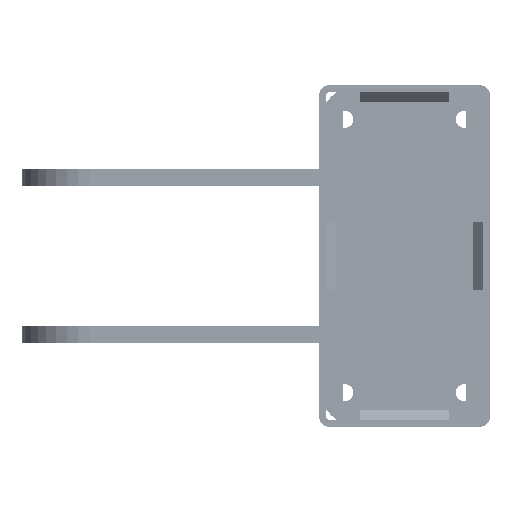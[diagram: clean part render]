
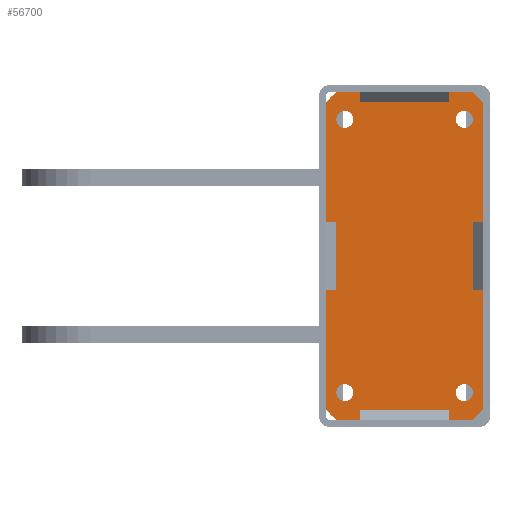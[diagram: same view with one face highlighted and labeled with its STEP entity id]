
A CAD part, front view. The second image highlights one B-rep face of the part: STEP entity #56700.
In plain terms, the highlighted planar face has unit normal (0, -1, 0).
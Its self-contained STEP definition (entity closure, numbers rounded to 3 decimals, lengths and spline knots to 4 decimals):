
#2397 = CARTESIAN_POINT ( 'NONE',  ( -6.7408, -15.2966, 32.5984 ) ) ;
#3856 = LINE ( 'NONE', #12532, #110785 ) ;
#7234 = CARTESIAN_POINT ( 'NONE',  ( -5.2644, -15.2966, 32.185 ) ) ;
#7785 = AXIS2_PLACEMENT_3D ( 'NONE', #23713, #96163, #14167 ) ;
#8439 = CARTESIAN_POINT ( 'NONE',  ( -5.166, -15.2966, 32.5984 ) ) ;
#8983 = VERTEX_POINT ( 'NONE', #12369 ) ;
#10382 = DIRECTION ( 'NONE',  ( 0., -1., 0. ) ) ;
#10519 = CARTESIAN_POINT ( 'NONE',  ( -6.8589, -15.2966, 32.4803 ) ) ;
#11041 = CARTESIAN_POINT ( 'NONE',  ( -6.8589, -15.2966, 32.4803 ) ) ;
#12369 = CARTESIAN_POINT ( 'NONE',  ( -5.166, -15.2966, 28.8189 ) ) ;
#12532 = CARTESIAN_POINT ( 'NONE',  ( -5.166, -15.2966, 32.5984 ) ) ;
#13512 = VERTEX_POINT ( 'NONE', #73783 ) ;
#14167 = DIRECTION ( 'NONE',  ( 0., 0., -1. ) ) ;
#15426 = DIRECTION ( 'NONE',  ( 0., 0., -1. ) ) ;
#15428 = EDGE_LOOP ( 'NONE', ( #67382, #67971 ) ) ;
#15435 = EDGE_CURVE ( 'NONE', #108380, #107599, #125200, .T. ) ;
#15681 = CARTESIAN_POINT ( 'NONE',  ( -6.7408, -15.2966, 28.8189 ) ) ;
#15824 = ORIENTED_EDGE ( 'NONE', *, *, #40523, .T. ) ;
#16381 = FACE_BOUND ( 'NONE', #15428, .T. ) ;
#16569 = EDGE_CURVE ( 'NONE', #113980, #118996, #47141, .T. ) ;
#16612 = ORIENTED_EDGE ( 'NONE', *, *, #64132, .F. ) ;
#17059 = EDGE_CURVE ( 'NONE', #68720, #13512, #89308, .T. ) ;
#17369 = CARTESIAN_POINT ( 'NONE',  ( -5.2644, -15.2966, 29.2323 ) ) ;
#17615 = EDGE_LOOP ( 'NONE', ( #94203, #39962 ) ) ;
#18426 = AXIS2_PLACEMENT_3D ( 'NONE', #77047, #128248, #76164 ) ;
#18894 = AXIS2_PLACEMENT_3D ( 'NONE', #29798, #101361, #91856 ) ;
#19615 = CARTESIAN_POINT ( 'NONE',  ( -6.6424, -15.2966, 29.1339 ) ) ;
#23188 = LINE ( 'NONE', #96510, #130077 ) ;
#23713 = CARTESIAN_POINT ( 'NONE',  ( -5.9534, -15.2966, 30.7087 ) ) ;
#25769 = AXIS2_PLACEMENT_3D ( 'NONE', #52823, #115431, #75084 ) ;
#26789 = AXIS2_PLACEMENT_3D ( 'NONE', #122882, #69379, #39512 ) ;
#26904 = EDGE_CURVE ( 'NONE', #106424, #39411, #50997, .T. ) ;
#29388 = CARTESIAN_POINT ( 'NONE',  ( -5.0479, -15.2966, 28.937 ) ) ;
#29798 = CARTESIAN_POINT ( 'NONE',  ( -6.6424, -15.2966, 29.1339 ) ) ;
#30889 = DIRECTION ( 'NONE',  ( -0.707, 0., -0.707 ) ) ;
#31778 = ORIENTED_EDGE ( 'NONE', *, *, #34612, .F. ) ;
#33037 = EDGE_CURVE ( 'NONE', #86130, #44011, #71601, .T. ) ;
#34612 = EDGE_CURVE ( 'NONE', #13512, #68720, #64923, .T. ) ;
#36212 = CARTESIAN_POINT ( 'NONE',  ( -6.6424, -15.2966, 32.2835 ) ) ;
#37454 = AXIS2_PLACEMENT_3D ( 'NONE', #19615, #124223, #60740 ) ;
#37598 = LINE ( 'NONE', #29388, #130014 ) ;
#39346 = DIRECTION ( 'NONE',  ( 0., -1., 0. ) ) ;
#39411 = VERTEX_POINT ( 'NONE', #7234 ) ;
#39512 = DIRECTION ( 'NONE',  ( 0., 0., -1. ) ) ;
#39962 = ORIENTED_EDGE ( 'NONE', *, *, #16569, .F. ) ;
#40523 = EDGE_CURVE ( 'NONE', #49351, #108380, #61046, .T. ) ;
#40576 = DIRECTION ( 'NONE',  ( 0.707, 0., -0.707 ) ) ;
#40821 = AXIS2_PLACEMENT_3D ( 'NONE', #81954, #39346, #111846 ) ;
#42605 = CARTESIAN_POINT ( 'NONE',  ( -6.6424, -15.2966, 29.2323 ) ) ;
#43771 = CARTESIAN_POINT ( 'NONE',  ( -6.6424, -15.2966, 29.0354 ) ) ;
#44011 = VERTEX_POINT ( 'NONE', #86618 ) ;
#44036 = PLANE ( 'NONE',  #7785 ) ;
#44212 = ORIENTED_EDGE ( 'NONE', *, *, #116385, .T. ) ;
#45788 = VERTEX_POINT ( 'NONE', #82319 ) ;
#47141 = CIRCLE ( 'NONE', #37454, 0.0984 ) ;
#47621 = CARTESIAN_POINT ( 'NONE',  ( -5.0479, -15.2966, 32.4803 ) ) ;
#49351 = VERTEX_POINT ( 'NONE', #11041 ) ;
#49518 = AXIS2_PLACEMENT_3D ( 'NONE', #36212, #77452, #15426 ) ;
#50053 = CARTESIAN_POINT ( 'NONE',  ( -6.8589, -15.2966, 28.937 ) ) ;
#50997 = CIRCLE ( 'NONE', #25769, 0.0984 ) ;
#51068 = CARTESIAN_POINT ( 'NONE',  ( -5.2644, -15.2966, 32.2835 ) ) ;
#52688 = ORIENTED_EDGE ( 'NONE', *, *, #110790, .T. ) ;
#52823 = CARTESIAN_POINT ( 'NONE',  ( -5.2644, -15.2966, 32.2835 ) ) ;
#53442 = CIRCLE ( 'NONE', #26789, 0.0984 ) ;
#53759 = VERTEX_POINT ( 'NONE', #2397 ) ;
#54696 = CARTESIAN_POINT ( 'NONE',  ( -5.2644, -15.2966, 32.3819 ) ) ;
#55035 = EDGE_CURVE ( 'NONE', #118996, #113980, #110575, .T. ) ;
#56700 = ADVANCED_FACE ( 'NONE', ( #69849, #76273, #86022, #16381, #103841 ), #44036, .T. ) ;
#57462 = LINE ( 'NONE', #61238, #109402 ) ;
#57999 = EDGE_CURVE ( 'NONE', #44011, #86130, #53442, .T. ) ;
#58304 = ORIENTED_EDGE ( 'NONE', *, *, #26904, .F. ) ;
#59520 = DIRECTION ( 'NONE',  ( 0., 0., -1. ) ) ;
#60740 = DIRECTION ( 'NONE',  ( 0., 0., -1. ) ) ;
#61046 = LINE ( 'NONE', #121642, #77351 ) ;
#61238 = CARTESIAN_POINT ( 'NONE',  ( -6.7408, -15.2966, 28.8189 ) ) ;
#64132 = EDGE_CURVE ( 'NONE', #39411, #106424, #111689, .T. ) ;
#64923 = CIRCLE ( 'NONE', #18426, 0.0984 ) ;
#65392 = DIRECTION ( 'NONE',  ( -0.707, 0., 0.707 ) ) ;
#66752 = VECTOR ( 'NONE', #40576, 39.3701 ) ;
#67382 = ORIENTED_EDGE ( 'NONE', *, *, #57999, .F. ) ;
#67509 = ORIENTED_EDGE ( 'NONE', *, *, #96232, .T. ) ;
#67971 = ORIENTED_EDGE ( 'NONE', *, *, #33037, .F. ) ;
#68720 = VERTEX_POINT ( 'NONE', #71519 ) ;
#69379 = DIRECTION ( 'NONE',  ( 0., -1., 0. ) ) ;
#69849 = FACE_BOUND ( 'NONE', #75767, .T. ) ;
#71519 = CARTESIAN_POINT ( 'NONE',  ( -6.6424, -15.2966, 32.185 ) ) ;
#71601 = CIRCLE ( 'NONE', #40821, 0.0984 ) ;
#72421 = EDGE_CURVE ( 'NONE', #92418, #123209, #3856, .T. ) ;
#73783 = CARTESIAN_POINT ( 'NONE',  ( -6.6424, -15.2966, 32.3819 ) ) ;
#75084 = DIRECTION ( 'NONE',  ( 0., 0., -1. ) ) ;
#75767 = EDGE_LOOP ( 'NONE', ( #16612, #58304 ) ) ;
#76164 = DIRECTION ( 'NONE',  ( 0., 0., -1. ) ) ;
#76273 = FACE_BOUND ( 'NONE', #110323, .T. ) ;
#77047 = CARTESIAN_POINT ( 'NONE',  ( -6.6424, -15.2966, 32.2835 ) ) ;
#77351 = VECTOR ( 'NONE', #59520, 39.3701 ) ;
#77452 = DIRECTION ( 'NONE',  ( 0., -1., 0. ) ) ;
#81954 = CARTESIAN_POINT ( 'NONE',  ( -5.2644, -15.2966, 29.1339 ) ) ;
#82319 = CARTESIAN_POINT ( 'NONE',  ( -5.0479, -15.2966, 28.937 ) ) ;
#85003 = VECTOR ( 'NONE', #86204, 39.3701 ) ;
#85379 = LINE ( 'NONE', #10519, #109663 ) ;
#86022 = FACE_BOUND ( 'NONE', #17615, .T. ) ;
#86130 = VERTEX_POINT ( 'NONE', #17369 ) ;
#86204 = DIRECTION ( 'NONE',  ( -1., 0., 0. ) ) ;
#86618 = CARTESIAN_POINT ( 'NONE',  ( -5.2644, -15.2966, 29.0354 ) ) ;
#89308 = CIRCLE ( 'NONE', #49518, 0.0984 ) ;
#90068 = DIRECTION ( 'NONE',  ( 0., 0., 1. ) ) ;
#90886 = ORIENTED_EDGE ( 'NONE', *, *, #15435, .T. ) ;
#91856 = DIRECTION ( 'NONE',  ( 0., 0., -1. ) ) ;
#92418 = VERTEX_POINT ( 'NONE', #47621 ) ;
#94203 = ORIENTED_EDGE ( 'NONE', *, *, #55035, .F. ) ;
#96163 = DIRECTION ( 'NONE',  ( 0., -1., 0. ) ) ;
#96232 = EDGE_CURVE ( 'NONE', #45788, #92418, #37598, .T. ) ;
#96510 = CARTESIAN_POINT ( 'NONE',  ( -5.166, -15.2966, 28.8189 ) ) ;
#98955 = ORIENTED_EDGE ( 'NONE', *, *, #121926, .T. ) ;
#101361 = DIRECTION ( 'NONE',  ( 0., -1., 0. ) ) ;
#103841 = FACE_OUTER_BOUND ( 'NONE', #107313, .T. ) ;
#104361 = CARTESIAN_POINT ( 'NONE',  ( -6.8589, -15.2966, 28.937 ) ) ;
#105983 = ORIENTED_EDGE ( 'NONE', *, *, #72421, .T. ) ;
#106424 = VERTEX_POINT ( 'NONE', #54696 ) ;
#106910 = DIRECTION ( 'NONE',  ( 0.707, 0., 0.707 ) ) ;
#107056 = CARTESIAN_POINT ( 'NONE',  ( -6.7408, -15.2966, 32.5984 ) ) ;
#107313 = EDGE_LOOP ( 'NONE', ( #105983, #52688, #118893, #15824, #90886, #44212, #98955, #67509 ) ) ;
#107599 = VERTEX_POINT ( 'NONE', #15681 ) ;
#108380 = VERTEX_POINT ( 'NONE', #104361 ) ;
#109402 = VECTOR ( 'NONE', #124258, 39.3701 ) ;
#109663 = VECTOR ( 'NONE', #30889, 39.3701 ) ;
#110323 = EDGE_LOOP ( 'NONE', ( #131632, #31778 ) ) ;
#110575 = CIRCLE ( 'NONE', #18894, 0.0984 ) ;
#110785 = VECTOR ( 'NONE', #65392, 39.3701 ) ;
#110790 = EDGE_CURVE ( 'NONE', #123209, #53759, #122307, .T. ) ;
#111689 = CIRCLE ( 'NONE', #117536, 0.0984 ) ;
#111846 = DIRECTION ( 'NONE',  ( 0., 0., -1. ) ) ;
#112740 = DIRECTION ( 'NONE',  ( 0., 0., -1. ) ) ;
#113841 = EDGE_CURVE ( 'NONE', #53759, #49351, #85379, .T. ) ;
#113980 = VERTEX_POINT ( 'NONE', #42605 ) ;
#115431 = DIRECTION ( 'NONE',  ( 0., -1., 0. ) ) ;
#116385 = EDGE_CURVE ( 'NONE', #107599, #8983, #57462, .T. ) ;
#117536 = AXIS2_PLACEMENT_3D ( 'NONE', #51068, #10382, #112740 ) ;
#118893 = ORIENTED_EDGE ( 'NONE', *, *, #113841, .T. ) ;
#118996 = VERTEX_POINT ( 'NONE', #43771 ) ;
#121642 = CARTESIAN_POINT ( 'NONE',  ( -6.8589, -15.2966, 28.937 ) ) ;
#121926 = EDGE_CURVE ( 'NONE', #8983, #45788, #23188, .T. ) ;
#122307 = LINE ( 'NONE', #107056, #85003 ) ;
#122882 = CARTESIAN_POINT ( 'NONE',  ( -5.2644, -15.2966, 29.1339 ) ) ;
#123209 = VERTEX_POINT ( 'NONE', #8439 ) ;
#124223 = DIRECTION ( 'NONE',  ( 0., -1., 0. ) ) ;
#124258 = DIRECTION ( 'NONE',  ( 1., 0., 0. ) ) ;
#125200 = LINE ( 'NONE', #50053, #66752 ) ;
#128248 = DIRECTION ( 'NONE',  ( 0., -1., 0. ) ) ;
#130014 = VECTOR ( 'NONE', #90068, 39.3701 ) ;
#130077 = VECTOR ( 'NONE', #106910, 39.3701 ) ;
#131632 = ORIENTED_EDGE ( 'NONE', *, *, #17059, .F. ) ;
